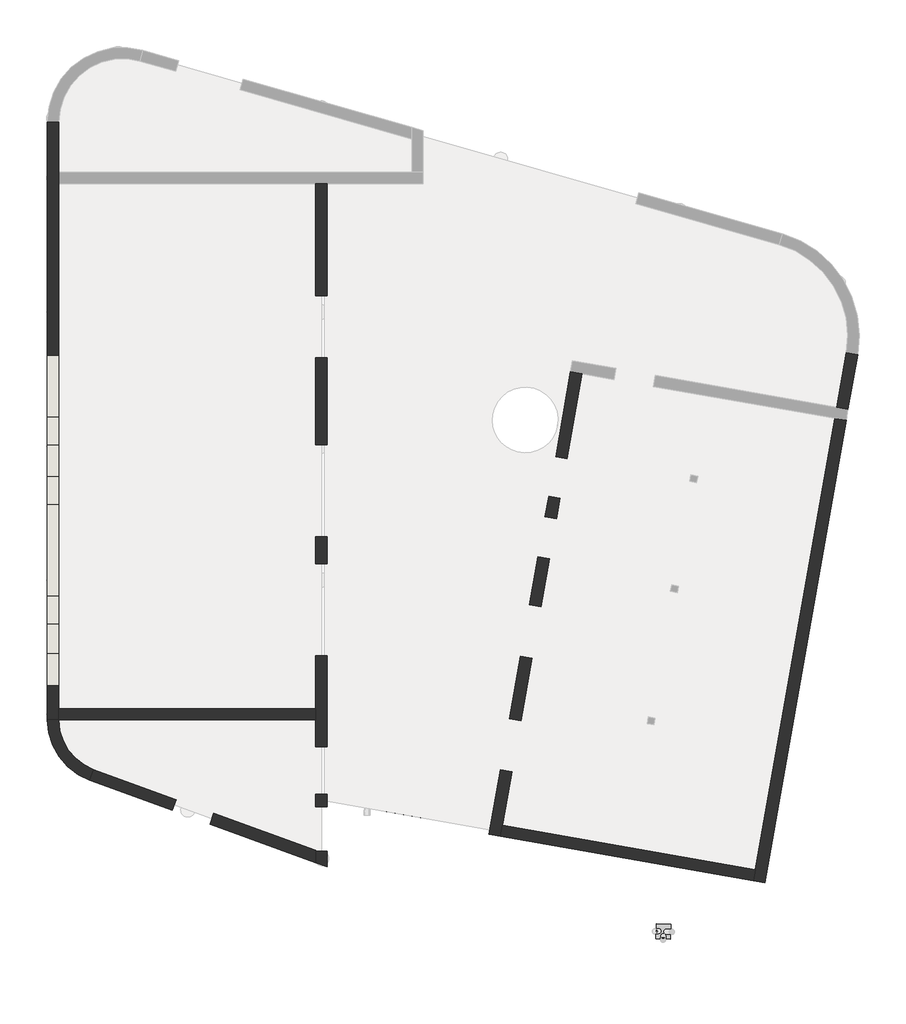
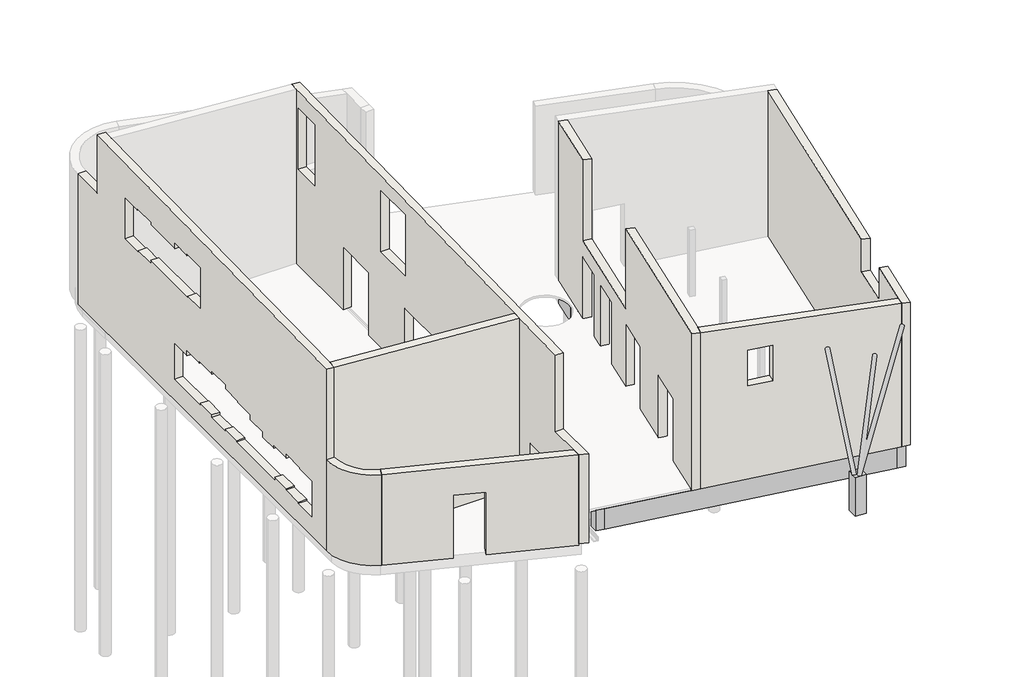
# One storey, part 1 of 2: 10 beams, 8 walls.
"""IFC4 building model written with IfcOpenShell, lengths in millimetres."""

from ifc_helpers import new_model, si_unit, point, frame, frame_2d, origin, place, context, project, spatial, polyline, circle_curve, trimmed, segment, composite_curve, outline, extrude, faceted_brep, element, save

model = new_model("IFC4")

# Units and contexts
model_context = context("Model", 3, world=origin())
ifc_project = project(units=[si_unit("LENGTHUNIT", "METRE", prefix="MILLI")], contexts=[model_context])

# Site, building, storey
site = spatial("IfcSite", under=ifc_project)
building = spatial("IfcBuilding", under=site)
storey = spatial("IfcBuildingStorey", under=building, Name="00 begane grond b.k. ruwe vloer", Elevation=-70.0)

# Beams
placement = place(None, origin())
element("IfcBeam", 1, ObjectType="NLRS_16_WA Funderingsbalk_beton_prefab_300x810", at=placement, inside=storey, context=model_context, shape_type="Brep", body=[
    faceted_brep([(31172.2852563, 19724.7390344, -890.0), (30913.4457286, 18256.5036386, -890.0), (30861.3610293, 17961.0595862, -890.0), (28744.518966, 5953.5332548, -890.0), (28692.4342679, 5658.0892088, -890.0), (28692.4342679, 5658.0892088, -80.0), (28744.518966, 5953.5332548, -80.0), (30861.3610293, 17961.0595862, -80.0), (30913.4457286, 18256.5036386, -80.0), (31172.2852563, 19724.7390344, -80.0), (31467.7293021, 19672.6543364, -890.0), (31467.7293021, 19672.6543364, -80.0), (28987.876594, 5605.9947554, -80.0), (28987.876594, 5605.9947554, -890.0)], [[[0, 1, 2, 3, 4, 5, 6, 7, 8, 9]], [[10, 11, 12, 13]], [[4, 3, 2, 1, 0, 10, 13]], [[9, 8, 7, 6, 5, 12, 11]], [[0, 9, 11, 10]], [[5, 4, 13, 12]]]),
])
element("IfcBeam", 2, ObjectType="NLRS_16_WA Funderingsbalk_beton_prefab_300x810", at=placement, inside=storey, context=model_context, shape_type="Brep", body=[
    faceted_brep([(28744.518966, 5953.5332548, -890.0), (22059.6590645, 7132.2544177, -890.0), (21764.2167299, 7184.3488725, -890.0), (18798.8033847, 7707.2312542, -890.0), (18798.8033847, 7707.2312542, -80.0), (21764.2167299, 7184.3488725, -80.0), (22059.6590645, 7132.2544177, -80.0), (28744.518966, 5953.5332548, -80.0), (28692.4342679, 5658.0892088, -890.0), (28692.4342679, 5658.0892088, -80.0), (18785.5886729, 7404.9333809, -80.0), (18785.5886729, 7404.9333809, -890.0)], [[[0, 1, 2, 3, 4, 5, 6, 7]], [[8, 9, 10, 11]], [[3, 2, 1, 0, 8, 11]], [[7, 6, 5, 4, 10, 9]], [[0, 7, 9, 8]], [[4, 3, 11, 10]]]),
])
element("IfcBeam", 3, ObjectType="NLRS_16_WA Funderingsbalk_beton_prefab_300x810", at=placement, inside=storey, context=model_context, shape_type="SweptSolid", body=[
    extrude(outline(composite_curve([segment(polyline([(24173.685605, 19138.5974359), (22059.6590645, 7132.2544177), (21764.2167299, 7184.3488725), (23565.2213494, 17412.923976)]), True, "CONTINUOUS"), segment(trimmed(circle_curve(frame_2d((22654.2928972, 17893.6623195)), 1030.0), [point((23565.2213494, 17412.923976))], [point((23663.9952811, 17690.1897268))], True, "CARTESIAN"), True, "CONTINUOUS"), segment(polyline([(23663.9952811, 17690.1897268), (23615.6531923, 17699.3451693), (23624.1247056, 17747.4580443), (23672.6945019, 17739.5254594)]), True, "CONTINUOUS"), segment(trimmed(circle_curve(frame_2d((22654.2928972, 17893.6623195)), 1030.0), [point((23672.6945019, 17739.5254594))], [point((23674.6394143, 18034.3498636))], True, "CARTESIAN"), True, "CONTINUOUS"), segment(polyline([(23674.6394143, 18034.3498636), (23878.2305971, 19190.619915), (24173.685605, 19138.5974359)]), True, "CONTINUOUS")], self_intersect=False)), frame((0.0, 0.0, -890.0), z_axis=(0.0, 0.0, 1.0), x_axis=(1.0, 0.0, 0.0)), (0.0, 0.0, 1.0), 810.0),
])
element("IfcBeam", 4, ObjectType="NLRS_16_WA Funderingsbalk_beton_prefab_300x810", at=placement, inside=storey, context=model_context, shape_type="SweptSolid", body=[
    extrude(outline(polyline([(26837.669011, 13487.1927494), (26785.646532, 13191.7377415), (26490.1915241, 13243.7602205), (26542.2140031, 13539.2152284), (26837.669011, 13487.1927494)])), frame((0.0, 0.0, -890.0), z_axis=(0.0, 0.0, 1.0), x_axis=(1.0, 0.0, 0.0)), (0.0, 0.0, 1.0), 810.0),
])
element("IfcBeam", 5, ObjectType="NLRS_16_WA Funderingsbalk_beton_prefab_300x810", at=placement, inside=storey, context=model_context, shape_type="SweptSolid", body=[
    extrude(outline(polyline([(26212.5355714, 9941.8848385), (26160.5130923, 9646.4298306), (25865.0580845, 9698.4523097), (25917.0805635, 9993.9073176), (26212.5355714, 9941.8848385)])), frame((0.0, 0.0, -890.0), z_axis=(0.0, 0.0, 1.0), x_axis=(1.0, 0.0, 0.0)), (0.0, 0.0, 1.0), 810.0),
])
element("IfcBeam", 6, ObjectType="NLRS_16_WA Funderingsbalk_beton_prefab_300x810", at=placement, inside=storey, context=model_context, shape_type="SweptSolid", body=[
    extrude(outline(polyline([(18500.8137838, 7759.7748608), (18798.8033847, 7707.2312542), (18785.5886729, 7404.9333809), (18487.599072, 7457.4769875), (18500.8137838, 7759.7748608)])), frame((0.0, 0.0, -890.0), z_axis=(0.0, 0.0, 1.0), x_axis=(1.0, 0.0, 0.0)), (0.0, 0.0, 1.0), 810.0),
])
element("IfcBeam", 7, ObjectType="NLRS_16_WA Funderingspoer_beton_ihwg_400x400x1530", at=placement, inside=storey, context=model_context, shape_type="SweptSolid", body=[
    extrude(outline(polyline([(26172.7272508, 4373.655263), (26572.4835816, 4359.6954643), (26558.5237829, 3959.9391335), (26158.7674521, 3973.8989322), (26172.7272508, 4373.655263)])), frame((0.0, 0.0, -890.0), z_axis=(0.0, 0.0, 1.0), x_axis=(1.0, 0.0, 0.0)), (0.0, 0.0, 1.0), 1529.9994238),
])
element("IfcBeam", 8, ObjectType="NLRS_16_WA Funderingsbalk_beton_prefab_150x810", at=placement, inside=storey, context=model_context, shape_type="Brep", body=[
    faceted_brep([(19841.0435707, 14694.0971046, -890.0), (21613.6451725, 14381.5396161, -890.0), (21613.6451725, 14381.5396161, -80.0), (19841.0435707, 14694.0971046, -80.0), (19867.0907973, 14841.8182675, -890.0), (19867.0907973, 14841.8182675, -80.0), (20014.8119603, 14815.7710409, -80.0), (21639.6923991, 14529.2607791, -80.0), (21639.6923991, 14529.2607791, -890.0), (20014.8119603, 14815.7710409, -890.0)], [[[0, 1, 2, 3]], [[4, 5, 6, 7, 8, 9]], [[1, 0, 4, 9, 8]], [[3, 2, 7, 6, 5]], [[0, 3, 5, 4]], [[2, 1, 8, 7]]]),
])
element("IfcBeam", 9, ObjectType="NLRS_16_WA Funderingsbalk_beton_prefab_150x810", at=placement, inside=storey, context=model_context, shape_type="SweptSolid", body=[
    extrude(outline(polyline([(19867.0907973, 14841.8182675), (20188.339926, 16663.7126106), (20336.061089, 16637.6653839), (20014.8119603, 14815.7710409), (19867.0907973, 14841.8182675)])), frame((0.0, 0.0, -890.0), z_axis=(0.0, 0.0, 1.0), x_axis=(1.0, 0.0, 0.0)), (0.0, 0.0, 1.0), 810.0),
])
element("IfcBeam", 10, ObjectType="NLRS_16_WA Funderingsbalk_beton_prefab_150x810", at=placement, inside=storey, context=model_context, shape_type="Brep", body=[
    faceted_brep([(21986.9887544, 16498.8762851, -890.0), (21960.9415278, 16351.1551221, -890.0), (21639.6923991, 14529.2607791, -890.0), (21613.6451725, 14381.5396161, -890.0), (21613.6451725, 14381.5396161, -80.0), (21639.6923991, 14529.2607791, -80.0), (21960.9415278, 16351.1551221, -80.0), (21986.9887544, 16498.8762851, -80.0), (22134.7099174, 16472.8290584, -890.0), (22134.7099174, 16472.8290584, -80.0), (21761.3663354, 14355.4923895, -80.0), (21761.3663354, 14355.4923895, -890.0)], [[[0, 1, 2, 3, 4, 5, 6, 7]], [[8, 9, 10, 11]], [[3, 2, 1, 0, 8, 11]], [[7, 6, 5, 4, 10, 9]], [[0, 7, 9, 8]], [[4, 3, 11, 10]]]),
])

# Walls
element("IfcWall", 11, ObjectType="NLRS_28_WA HSB_d=271", at=placement, inside=storey, context=model_context, shape_type="Brep", body=[
    faceted_brep([(17331.0, 5903.985384, 0.0), (17331.0, 6311.9621635, 0.0), (17331.0, 6311.9621635, 2070.0), (17331.0, 7511.2293816, 2070.0), (17331.0, 7511.2293816, 0.0), (17331.0, 7848.740786, 0.0), (17331.0, 7848.740786, 2070.0), (17331.0, 9128.740786, 2070.0), (17331.0, 9128.740786, 0.0), (17331.0, 11566.4999997, 0.0), (17331.0, 11566.4999997, 2470.0), (17331.0, 14033.4999997, 2470.0), (17331.0, 14033.4999997, 0.0), (17331.0, 14766.4999997, 0.0), (17331.0, 14766.4999997, 2470.0), (17331.0, 17233.4999997, 2470.0), (17331.0, 17233.4999997, 0.0), (17331.0, 19566.5, 0.0), (17331.0, 19566.5, 2470.0), (17331.0, 21233.5, 2470.0), (17331.0, 21233.5, 0.0), (17331.0, 24244.0, 0.0), (17331.0, 24244.0, 3500.0), (17331.0, 24550.0, 3500.0), (17331.0, 24550.0, 6840.2069958), (17331.0, 7523.4540769, 6497.1424668), (17331.0, 7523.4540769, 3500.0), (17331.0, 5903.985384, 3500.0), (17331.0, 18782.0893842, 6170.0), (17331.0, 18782.0893842, 3770.0), (17331.0, 17215.0893842, 3770.0), (17331.0, 17215.0893842, 6170.0), (17331.0, 24138.0, 6170.0), (17331.0, 24138.0, 3770.0), (17331.0, 23074.0, 3770.0), (17331.0, 23074.0, 6170.0), (17025.0, 6311.9621635, 0.0), (17025.0, 6015.329952, 0.0), (17025.0, 6015.329952, 3500.0), (17025.0, 6340.9579803, 3500.0), (17025.0, 7523.4540769, 3500.0), (17025.0, 7523.4540769, 6518.6443615), (17025.0, 9844.0, 6565.4005854), (17025.0, 10150.0, 6571.5661193), (17025.0, 24244.0, 6855.5433566), (17025.0, 24550.0, 6861.7088905), (17025.0, 24550.0, 3500.0), (17025.0, 24244.0, 3500.0), (17025.0, 24244.0, 0.0), (17025.0, 21233.5, 0.0), (17025.0, 21233.5, 2470.0), (17025.0, 19566.5, 2470.0), (17025.0, 19566.5, 0.0), (17025.0, 17233.4999997, 0.0), (17025.0, 17233.4999997, 2470.0), (17025.0, 14766.4999997, 2470.0), (17025.0, 14766.4999997, 0.0), (17025.0, 14033.4999997, 0.0), (17025.0, 14033.4999997, 2470.0), (17025.0, 11566.4999997, 2470.0), (17025.0, 11566.4999997, 0.0), (17025.0, 9128.740786, 0.0), (17025.0, 9128.740786, 2070.0), (17025.0, 7848.740786, 2070.0), (17025.0, 7848.740786, 0.0), (17025.0, 7511.2293816, 0.0), (17025.0, 7511.2293816, 2070.0), (17025.0, 6311.9621635, 2070.0), (17025.0, 18782.0893842, 3770.0), (17025.0, 18782.0893842, 6170.0), (17025.0, 17215.0893842, 6170.0), (17025.0, 17215.0893842, 3770.0), (17025.0, 24138.0, 3770.0), (17025.0, 24138.0, 6170.0), (17025.0, 23074.0, 6170.0), (17025.0, 23074.0, 3770.0)], [[[0, 1, 2, 3, 4, 5, 6, 7, 8, 9, 10, 11, 12, 13, 14, 15, 16, 17, 18, 19, 20, 21, 22, 23, 24, 25, 26, 27], [28, 29, 30, 31], [32, 33, 34, 35]], [[36, 37, 38, 39, 40, 41, 42, 43, 44, 45, 46, 47, 48, 49, 50, 51, 52, 53, 54, 55, 56, 57, 58, 59, 60, 61, 62, 63, 64, 65, 66, 67], [68, 69, 70, 71], [72, 73, 74, 75]], [[0, 27, 38, 37]], [[47, 22, 21, 48]], [[25, 24, 45, 44, 43, 42, 41]], [[1, 0, 37, 36]], [[2, 1, 36, 67]], [[3, 2, 67, 66]], [[4, 3, 66, 65]], [[5, 4, 65, 64]], [[6, 5, 64, 63]], [[7, 6, 63, 62]], [[8, 7, 62, 61]], [[9, 8, 61, 60]], [[10, 9, 60, 59]], [[11, 10, 59, 58]], [[12, 11, 58, 57]], [[13, 12, 57, 56]], [[14, 13, 56, 55]], [[15, 14, 55, 54]], [[16, 15, 54, 53]], [[17, 16, 53, 52]], [[18, 17, 52, 51]], [[19, 18, 51, 50]], [[20, 19, 50, 49]], [[20, 49, 48, 21]], [[29, 28, 69, 68]], [[30, 29, 68, 71]], [[31, 30, 71, 70]], [[28, 31, 70, 69]], [[33, 32, 73, 72]], [[34, 33, 72, 75]], [[35, 34, 75, 74]], [[32, 35, 74, 73]], [[22, 47, 46, 23]], [[45, 24, 23, 46]], [[26, 25, 41, 40]], [[27, 26, 40, 39, 38]]]),
])
element("IfcWall", 12, ObjectType="NLRS_28_WA HSB_d=271", at=placement, inside=storey, context=model_context, shape_type="Brep", body=[
    faceted_brep([(17025.0, 10150.0, -70.0), (10125.0, 10150.0, -70.0), (10125.0, 10150.0, 7056.4127643), (17025.0, 10150.0, 6571.5661193), (17025.0, 9844.0, -70.0), (17025.0, 9844.0, 6565.4005854), (10125.0, 9844.0, 7050.2472304), (10125.0, 9844.0, -70.0)], [[[0, 1, 2, 3]], [[4, 5, 6, 7]], [[1, 0, 4, 7]], [[0, 3, 5, 4]], [[2, 1, 7, 6]], [[3, 2, 6, 5]]]),
])
element("IfcWall", 13, ObjectType="NLRS_28_WA HSB_d=271", at=placement, inside=storey, context=model_context, shape_type="Brep", body=[
    faceted_brep([(9819.0, 25897.453859, -70.0), (9819.0, 9843.6283302, -70.0), (9819.0, 9843.6283302, 7071.7416364), (9819.0, 24611.3697451, 7369.2939571), (9819.0, 24611.3697451, 5050.0), (9819.0, 25897.453859, 5050.0), (9819.0, 22831.5, 4350.0), (9819.0, 22831.5, 5950.0), (9819.0, 22031.5, 5950.0), (9819.0, 22031.5, 6000.0), (9819.0, 21168.5, 6000.0), (9819.0, 21168.5, 5900.0), (9819.0, 19631.5, 5900.0), (9819.0, 19631.5, 6100.0), (9819.0, 18831.5, 6100.0), (9819.0, 18831.5, 6150.0), (9819.0, 17968.5, 6150.0), (9819.0, 17968.5, 4550.0), (9819.0, 18768.5, 4550.0), (9819.0, 18768.5, 4500.0), (9819.0, 18812.5, 4500.0), (9819.0, 21168.5, 4500.0), (9819.0, 21168.5, 4400.0), (9819.0, 21968.5, 4400.0), (9819.0, 21968.5, 4350.0), (9819.0, 17968.5, 750.0), (9819.0, 19631.5, 750.0), (9819.0, 19631.5, 2150.0), (9819.0, 18831.5, 2150.0), (9819.0, 18831.5, 2350.0), (9819.0, 18031.5, 2350.0), (9819.0, 18031.5, 2400.0), (9819.0, 17231.5, 2400.0), (9819.0, 17231.5, 2500.0), (9819.0, 16368.5, 2500.0), (9819.0, 16368.5, 2350.0), (9819.0, 15568.5, 2350.0), (9819.0, 15568.5, 2300.0), (9819.0, 14768.5, 2300.0), (9819.0, 14768.5, 2100.0), (9819.0, 13968.5, 2100.0), (9819.0, 13968.5, 1900.0), (9819.0, 13231.5, 1900.0), (9819.0, 13231.5, 2000.0), (9819.0, 12431.5, 2000.0), (9819.0, 12431.5, 2150.0), (9819.0, 11568.5, 2150.0), (9819.0, 11568.5, 2100.0), (9819.0, 10768.5, 2100.0), (9819.0, 10768.5, 700.0), (9819.0, 11631.5, 700.0), (9819.0, 11631.5, 750.0), (9819.0, 12431.5, 750.0), (9819.0, 12431.5, 800.0), (9819.0, 13168.5, 800.0), (9819.0, 13168.5, 700.0), (9819.0, 15631.5, 700.0), (9819.0, 15631.5, 750.0), (9819.0, 16368.5, 750.0), (9819.0, 16368.5, 700.0), (9819.0, 17231.5, 700.0), (9819.0, 17231.5, 800.0), (9819.0, 17968.5, 800.0), (10125.0, 25897.1125942, -70.0), (10125.0, 25897.1125942, 5050.0), (10125.0, 24611.3697451, 5050.0), (10125.0, 24611.3697451, 7347.7920624), (10125.0, 24550.0, 7346.5555355), (10125.0, 24244.0, 7340.3900016), (10125.0, 10150.0, 7056.4127643), (10125.0, 9844.0, 7050.2472304), (10125.0, 9844.0, -70.0), (10125.0, 10150.0, -70.0), (10125.0, 22831.5, 4350.0), (10125.0, 21968.5, 4350.0), (10125.0, 21968.5, 4400.0), (10125.0, 21168.5, 4400.0), (10125.0, 21168.5, 4500.0), (10125.0, 18812.5, 4500.0), (10125.0, 18768.5, 4500.0), (10125.0, 18768.5, 4550.0), (10125.0, 17968.5, 4550.0), (10125.0, 17968.5, 6150.0), (10125.0, 18831.5, 6150.0), (10125.0, 18831.5, 6100.0), (10125.0, 19631.5, 6100.0), (10125.0, 19631.5, 5900.0), (10125.0, 21168.5, 5900.0), (10125.0, 21168.5, 6000.0), (10125.0, 22031.5, 6000.0), (10125.0, 22031.5, 5950.0), (10125.0, 22831.5, 5950.0), (10125.0, 17968.5, 750.0), (10125.0, 17968.5, 800.0), (10125.0, 17231.5, 800.0), (10125.0, 17231.5, 700.0), (10125.0, 16368.5, 700.0), (10125.0, 16368.5, 750.0), (10125.0, 15631.5, 750.0), (10125.0, 15631.5, 700.0), (10125.0, 13168.5, 700.0), (10125.0, 13168.5, 800.0), (10125.0, 12431.5, 800.0), (10125.0, 12431.5, 750.0), (10125.0, 11631.5, 750.0), (10125.0, 11631.5, 700.0), (10125.0, 10768.5, 700.0), (10125.0, 10768.5, 2100.0), (10125.0, 11568.5, 2100.0), (10125.0, 11568.5, 2150.0), (10125.0, 12431.5, 2150.0), (10125.0, 12431.5, 2000.0), (10125.0, 13231.5, 2000.0), (10125.0, 13231.5, 1900.0), (10125.0, 13968.5, 1900.0), (10125.0, 13968.5, 2100.0), (10125.0, 14768.5, 2100.0), (10125.0, 14768.5, 2300.0), (10125.0, 15568.5, 2300.0), (10125.0, 15568.5, 2350.0), (10125.0, 16368.5, 2350.0), (10125.0, 16368.5, 2500.0), (10125.0, 17231.5, 2500.0), (10125.0, 17231.5, 2400.0), (10125.0, 18031.5, 2400.0), (10125.0, 18031.5, 2350.0), (10125.0, 18831.5, 2350.0), (10125.0, 18831.5, 2150.0), (10125.0, 19631.5, 2150.0), (10125.0, 19631.5, 750.0)], [[[0, 1, 2, 3, 4, 5], [6, 7, 8, 9, 10, 11, 12, 13, 14, 15, 16, 17, 18, 19, 20, 21, 22, 23, 24], [25, 26, 27, 28, 29, 30, 31, 32, 33, 34, 35, 36, 37, 38, 39, 40, 41, 42, 43, 44, 45, 46, 47, 48, 49, 50, 51, 52, 53, 54, 55, 56, 57, 58, 59, 60, 61, 62]], [[63, 64, 65, 66, 67, 68, 69, 70, 71, 72], [73, 74, 75, 76, 77, 78, 79, 80, 81, 82, 83, 84, 85, 86, 87, 88, 89, 90, 91], [92, 93, 94, 95, 96, 97, 98, 99, 100, 101, 102, 103, 104, 105, 106, 107, 108, 109, 110, 111, 112, 113, 114, 115, 116, 117, 118, 119, 120, 121, 122, 123, 124, 125, 126, 127, 128, 129]], [[2, 1, 71, 70]], [[3, 2, 70, 69, 68, 67, 66]], [[0, 5, 64, 63]], [[1, 0, 63, 72, 71]], [[4, 3, 66, 65]], [[5, 4, 65, 64]], [[7, 6, 73, 91]], [[8, 7, 91, 90]], [[9, 8, 90, 89]], [[10, 9, 89, 88]], [[11, 10, 88, 87]], [[12, 11, 87, 86]], [[13, 12, 86, 85]], [[14, 13, 85, 84]], [[15, 14, 84, 83]], [[16, 15, 83, 82]], [[17, 16, 82, 81]], [[18, 17, 81, 80]], [[19, 18, 80, 79]], [[20, 19, 79, 78]], [[21, 20, 78, 77]], [[22, 21, 77, 76]], [[23, 22, 76, 75]], [[24, 23, 75, 74]], [[6, 24, 74, 73]], [[26, 25, 92, 129]], [[27, 26, 129, 128]], [[28, 27, 128, 127]], [[29, 28, 127, 126]], [[30, 29, 126, 125]], [[31, 30, 125, 124]], [[32, 31, 124, 123]], [[33, 32, 123, 122]], [[34, 33, 122, 121]], [[35, 34, 121, 120]], [[36, 35, 120, 119]], [[37, 36, 119, 118]], [[38, 37, 118, 117]], [[39, 38, 117, 116]], [[40, 39, 116, 115]], [[41, 40, 115, 114]], [[42, 41, 114, 113]], [[43, 42, 113, 112]], [[44, 43, 112, 111]], [[45, 44, 111, 110]], [[46, 45, 110, 109]], [[47, 46, 109, 108]], [[48, 47, 108, 107]], [[49, 48, 107, 106]], [[50, 49, 106, 105]], [[51, 50, 105, 104]], [[52, 51, 104, 103]], [[53, 52, 103, 102]], [[54, 53, 102, 101]], [[55, 54, 101, 100]], [[56, 55, 100, 99]], [[57, 56, 99, 98]], [[58, 57, 98, 97]], [[59, 58, 97, 96]], [[60, 59, 96, 95]], [[61, 60, 95, 94]], [[62, 61, 94, 93]], [[25, 62, 93, 92]]]),
])
element("IfcWall", 14, ObjectType="NLRS_28_WA HSB_d=271", at=placement, inside=storey, context=model_context, shape_type="Brep", body=[
    faceted_brep([(17025.0, 6340.9579803, 3500.0), (17025.0, 6340.9579803, -70.0), (14289.0979677, 7336.4737641, -70.0), (14289.0979677, 7336.4737641, 2400.0), (13270.4387311, 7707.1344589, 2400.0), (13270.4387311, 7707.1344589, -70.0), (11060.9225704, 8511.113617, -70.0), (11060.9225704, 8511.113617, 3500.0), (17025.0, 6015.329952, -70.0), (17025.0, 6015.329952, 0.0), (17025.0, 6015.329952, 3500.0), (10956.2895694, 8223.5585178, 3500.0), (10956.2895694, 8223.5585178, -70.0), (13165.8057301, 7419.5793597, -70.0), (13165.8057301, 7419.5793597, 2400.0), (14184.4649667, 7048.9186648, 2400.0), (14184.4649667, 7048.9186648, -70.0)], [[[0, 1, 2, 3, 4, 5, 6, 7]], [[8, 9, 10, 11, 12, 13, 14, 15, 16]], [[0, 10, 9, 8, 1]], [[6, 5, 13, 12]], [[7, 6, 12, 11]], [[0, 7, 11, 10]], [[2, 1, 8, 16]], [[3, 2, 16, 15]], [[4, 3, 15, 14]], [[5, 4, 14, 13]]]),
])
element("IfcWall", 15, ObjectType="NLRS_28_WA HSB_d=271", at=placement, inside=storey, context=model_context, shape_type="SweptSolid", body=[
    extrude(outline(composite_curve([segment(polyline([(9819.0, 9843.6283302), (10125.0, 9844.0)]), True, "CONTINUOUS"), segment(trimmed(circle_curve(frame_2d((11547.242935, 9847.6317271)), 1422.2475718), [point((10125.0, 9844.0))], [point((11060.9225704, 8511.113617))], True, "CARTESIAN"), True, "CONTINUOUS"), segment(polyline([(11060.9225704, 8511.113617), (10956.2895694, 8223.5585178)]), True, "CONTINUOUS"), segment(trimmed(circle_curve(frame_2d((11547.242935, 9847.6317271)), 1728.2475718), [point((10956.2895694, 8223.5585178))], [point((9819.0, 9843.6283302))], False, "CARTESIAN"), True, "CONTINUOUS")], self_intersect=False)), frame((0.0, 0.0, -70.0), z_axis=(0.0, 0.0, 1.0), x_axis=(1.0, 0.0, 0.0)), (0.0, 0.0, 1.0), 3570.0),
])
element("IfcWall", 16, ObjectType="NLRS_28_WA HSB_d=271", at=placement, inside=storey, context=model_context, shape_type="Brep", body=[
    faceted_brep([(23874.7253728, 19188.2288014, 0.0), (23473.9453788, 16915.2925077, 0.0), (23473.9453788, 16915.2925077, 2447.0), (23285.7107542, 15847.7609034, 2447.0), (23285.7107542, 15847.7609034, -10.0), (23188.815071, 15298.238177, -10.0), (23188.815071, 15298.238177, 2447.0), (23000.5804464, 14230.7065727, 2447.0), (23000.5804464, 14230.7065727, -10.0), (22772.0594446, 12934.6995698, -10.0), (22772.0594446, 12934.6995698, 2470.0), (22528.9519959, 11555.9687156, 2470.0), (22528.9519959, 11555.9687156, 0.0), (22233.7500939, 9881.7955354, 0.0), (22233.7500939, 9881.7955354, 2470.0), (21990.6426451, 8503.0646812, 2470.0), (21990.6426451, 8503.0646812, 0.0), (21685.7164451, 6773.7422669, 0.0), (21685.7164451, 6773.7422669, 6176.0410682), (22766.1554066, 12901.2161062, 6223.58245), (22766.1554066, 12901.2161062, 3070.0), (23475.3345642, 16923.1709695, 3070.0), (23475.3345642, 16923.1709695, 6254.7876899), (23874.7253728, 19188.2288014, 6272.3616498), (24176.0765452, 19135.092459, 0.0), (24176.0765452, 19135.092459, 6250.1157835), (23776.6857366, 16870.0346271, 6232.5418236), (23776.6857366, 16870.0346271, 3070.0), (23067.506579, 12848.0797638, 3070.0), (23067.506579, 12848.0797638, 6201.3365836), (22040.2039599, 7021.957097, 6156.1333026), (21987.0676176, 6720.6059246, 6153.7952018), (21987.0676176, 6720.6059246, 0.0), (22040.2039599, 7021.957097, 0.0), (22291.9938175, 8449.9283388, 0.0), (22291.9938175, 8449.9283388, 2470.0), (22535.1012663, 9828.6591931, 2470.0), (22535.1012663, 9828.6591931, 0.0), (22830.3031683, 11502.8323732, 0.0), (22830.3031683, 11502.8323732, 2470.0), (23073.410617, 12881.5632274, 2470.0), (23073.410617, 12881.5632274, -10.0), (23301.9316189, 14177.5702304, -10.0), (23301.9316189, 14177.5702304, 2447.0), (23490.1662434, 15245.1018346, 2447.0), (23490.1662434, 15245.1018346, -10.0), (23587.0619266, 15794.6245611, -10.0), (23587.0619266, 15794.6245611, 2447.0), (23775.2965512, 16862.1561653, 2447.0), (23775.2965512, 16862.1561653, 0.0)], [[[0, 1, 2, 3, 4, 5, 6, 7, 8, 9, 10, 11, 12, 13, 14, 15, 16, 17, 18, 19, 20, 21, 22, 23]], [[24, 25, 26, 27, 28, 29, 30, 31, 32, 33, 34, 35, 36, 37, 38, 39, 40, 41, 42, 43, 44, 45, 46, 47, 48, 49]], [[18, 17, 32, 31]], [[0, 23, 25, 24]], [[19, 18, 31, 30, 29]], [[1, 0, 24, 49]], [[2, 1, 49, 48]], [[3, 2, 48, 47]], [[4, 3, 47, 46]], [[5, 4, 46, 45]], [[6, 5, 45, 44]], [[7, 6, 44, 43]], [[8, 7, 43, 42]], [[9, 8, 42, 41]], [[10, 9, 41, 40]], [[11, 10, 40, 39]], [[12, 11, 39, 38]], [[13, 12, 38, 37]], [[14, 13, 37, 36]], [[15, 14, 36, 35]], [[16, 15, 35, 34]], [[17, 16, 34, 33, 32]], [[20, 19, 29, 28]], [[21, 20, 28, 27]], [[22, 21, 27, 26]], [[23, 22, 26, 25]]]),
])
element("IfcWall", 17, ObjectType="NLRS_28_WA HSB_d=271", at=placement, inside=storey, context=model_context, shape_type="Brep", body=[
    faceted_brep([(28835.3724805, 5823.7855483, 0.0), (22040.2039599, 7021.957097, 0.0), (22040.2039599, 7021.957097, 6156.1333026), (28835.3724805, 5823.7855483, 5654.511194), (24484.004399, 6591.0491441, 5070.0), (23634.1153082, 6740.9075214, 5070.0), (23634.1153082, 6740.9075214, 3670.0), (24484.004399, 6591.0491441, 3670.0), (28782.2460884, 5522.4326214, 0.0), (28782.2460884, 5522.4326214, 5652.1723587), (21987.0676176, 6720.6059246, 6153.7952018), (21987.0676176, 6720.6059246, 0.0), (24430.8680567, 6289.6979717, 5070.0), (24430.8680567, 6289.6979717, 3670.0), (23580.9789658, 6439.556349, 3670.0), (23580.9789658, 6439.556349, 5070.0)], [[[0, 1, 2, 3], [4, 5, 6, 7]], [[8, 9, 10, 11], [12, 13, 14, 15]], [[2, 1, 11, 10]], [[0, 3, 9, 8]], [[3, 2, 10, 9]], [[1, 0, 8, 11]], [[5, 4, 12, 15]], [[6, 5, 15, 14]], [[7, 6, 14, 13]], [[4, 7, 13, 12]]]),
])
element("IfcWall", 18, ObjectType="NLRS_28_WA HSB_d=271", at=placement, inside=storey, context=model_context, shape_type="Brep", body=[
    faceted_brep([(31282.5653958, 19705.1864699, 3500.0), (31282.5653958, 19705.1864699, 0.0), (31023.9714948, 18238.3443616, 0.0), (31023.9714948, 18238.3443616, 3500.0), (31583.9183225, 19652.0600778, 0.0), (31583.9183225, 19652.0600778, 3500.0), (31325.3226674, 18185.2080192, 3500.0), (31325.3226674, 18185.2080192, 0.0)], [[[0, 1, 2, 3]], [[4, 5, 6, 7]], [[1, 4, 7, 2]], [[1, 0, 5, 4]], [[5, 0, 3, 6]], [[3, 2, 7, 6]]]),
    faceted_brep([(28782.2460884, 5522.4326214, 0.0), (28782.2460884, 5522.4326214, 5652.1723587), (28835.3724805, 5823.7855483, 5654.511194), (29151.0897394, 7614.6528812, 5668.4103246), (29151.0916817, 7614.6638987, 4400.0), (29439.8171555, 9252.4236487, 4400.0), (29439.8171555, 9252.4236487, 5681.1212549), (30970.8451027, 17936.9914347, 5748.5232003), (30970.8451027, 17936.9914347, 0.0), (28835.3724805, 5823.7855483, 0.0), (29083.597261, 5469.296279, 5629.9264924), (29083.597261, 5469.296279, 0.0), (31272.1962753, 17883.8550923, 0.0), (31272.1962753, 17883.8550923, 5726.277334), (29741.1700822, 9199.2972567, 5658.8754658), (29741.1700822, 9199.2972567, 4400.0), (29452.4446085, 7561.5375067, 4400.0), (29452.4427002, 7561.5266824, 5646.164537)], [[[0, 1, 2, 3, 4, 5, 6, 7, 8, 9]], [[10, 11, 12, 13, 14, 15, 16, 17]], [[1, 0, 11, 10]], [[3, 2, 1, 10, 17]], [[11, 0, 9, 8, 12]], [[7, 13, 12, 8]], [[4, 3, 17, 16]], [[5, 4, 16, 15]], [[6, 5, 15, 14]], [[7, 6, 14, 13]]]),
])

save(model, "model.ifc")
